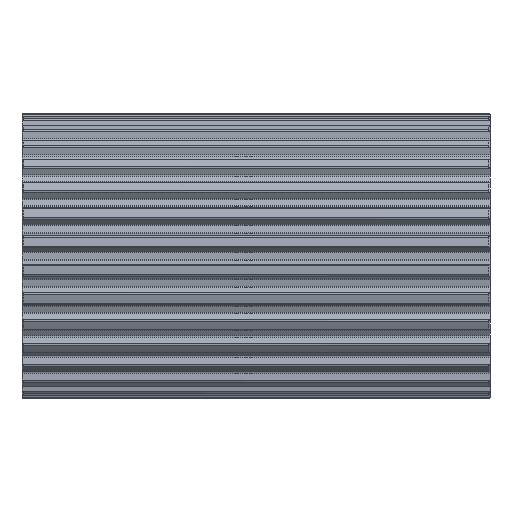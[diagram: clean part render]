
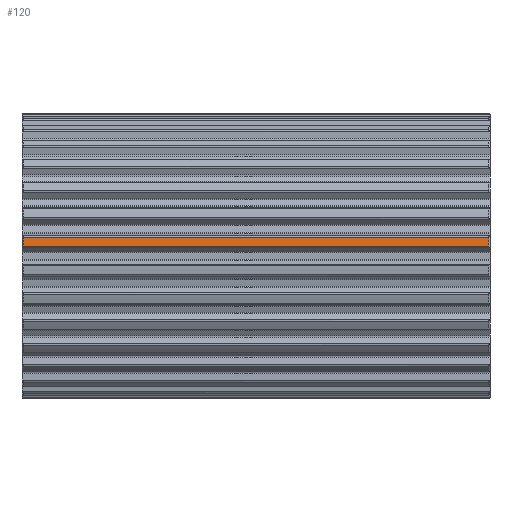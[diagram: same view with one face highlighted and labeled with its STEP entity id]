
A CAD part, front view. The second image highlights one B-rep face of the part: STEP entity #120.
In plain terms, the highlighted cylindrical face has radius 48.84 mm (diameter 97.68 mm), a partial arc.
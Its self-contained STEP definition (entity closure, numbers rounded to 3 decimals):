
#120=ADVANCED_FACE('',(#492),#493,.T.);
#492=FACE_OUTER_BOUND('',#1146,.T.);
#493=CYLINDRICAL_SURFACE('',#1147,48.84);
#1146=EDGE_LOOP('',(#2084,#2085,#2086,#2087));
#1147=AXIS2_PLACEMENT_3D('',#2088,#2089,#2090);
#2084=ORIENTED_EDGE('',*,*,#4825,.T.);
#2085=ORIENTED_EDGE('',*,*,#4826,.T.);
#2086=ORIENTED_EDGE('',*,*,#4827,.T.);
#2087=ORIENTED_EDGE('',*,*,#4828,.T.);
#2088=CARTESIAN_POINT('',(80.0,0.0,0.0));
#2089=DIRECTION('',(1.0,0.0,-0.0));
#2090=DIRECTION('',(0.0,0.101,0.995));
#4825=EDGE_CURVE('',#5981,#5990,#5992,.T.);
#4826=EDGE_CURVE('',#5990,#5993,#5994,.T.);
#4827=EDGE_CURVE('',#5993,#5995,#5996,.T.);
#4828=EDGE_CURVE('',#5995,#5981,#5997,.T.);
#5981=VERTEX_POINT('',#8569);
#5990=VERTEX_POINT('',#8603);
#5992=CIRCLE('',#8612,48.84);
#5993=VERTEX_POINT('',#8613);
#5994=LINE('',#8614,#8615);
#5995=VERTEX_POINT('',#8616);
#5996=CIRCLE('',#8617,48.84);
#5997=LINE('',#8618,#8619);
#8569=CARTESIAN_POINT('',(0.5,-48.41,6.467));
#8603=CARTESIAN_POINT('',(0.5,-48.721,3.41));
#8612=AXIS2_PLACEMENT_3D('',#11379,#11380,#11381);
#8613=CARTESIAN_POINT('',(159.5,-48.721,3.41));
#8614=CARTESIAN_POINT('',(80.0,-48.721,3.41));
#8615=VECTOR('',#11382,1.0);
#8616=CARTESIAN_POINT('',(159.5,-48.41,6.467));
#8617=AXIS2_PLACEMENT_3D('',#11383,#11384,#11385);
#8618=CARTESIAN_POINT('',(80.0,-48.41,6.467));
#8619=VECTOR('',#11386,1.0);
#11379=CARTESIAN_POINT('',(0.5,0.0,0.0));
#11380=DIRECTION('',(1.0,0.0,0.));
#11381=DIRECTION('',(0.,0.101,0.995));
#11382=DIRECTION('',(1.0,0.0,0.0));
#11383=CARTESIAN_POINT('',(159.5,0.0,0.0));
#11384=DIRECTION('',(-1.0,0.0,0.0));
#11385=DIRECTION('',(0.0,0.101,0.995));
#11386=DIRECTION('',(-1.0,0.0,0.0));
